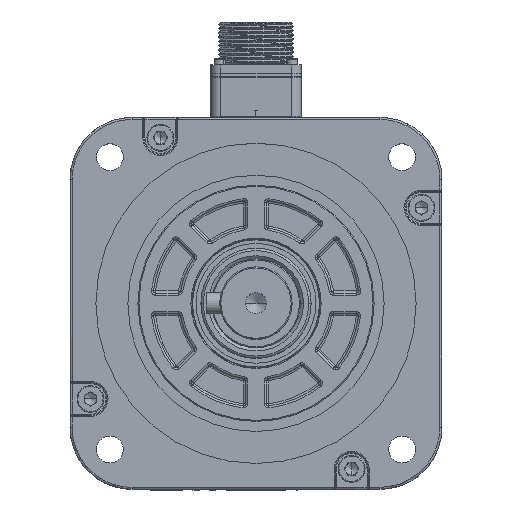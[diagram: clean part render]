
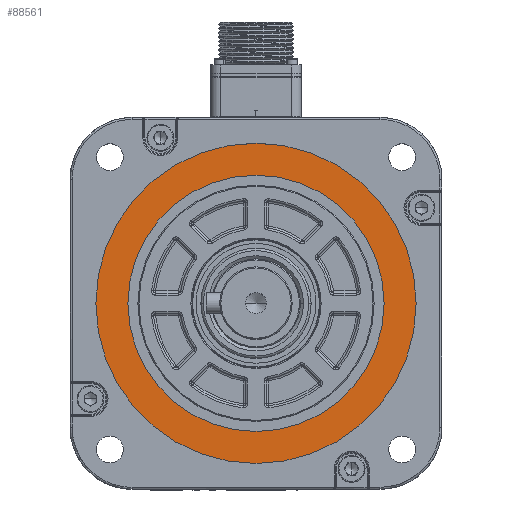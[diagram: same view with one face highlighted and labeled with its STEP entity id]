
A CAD part, top view. The second image highlights one B-rep face of the part: STEP entity #88561.
In plain terms, the highlighted planar face has unit normal (0, 0, 1) as drawn and (0, 0, -1) by its records, which use the part's own axes.
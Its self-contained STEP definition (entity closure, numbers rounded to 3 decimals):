
#1645 = DIRECTION ( 'NONE',  ( 0., 0., -1. ) ) ;
#9605 = DIRECTION ( 'NONE',  ( 0., 0., 1. ) ) ;
#17899 = VERTEX_POINT ( 'NONE', #151080 ) ;
#19473 = EDGE_LOOP ( 'NONE', ( #24736, #165322 ) ) ;
#21253 = CARTESIAN_POINT ( 'NONE',  ( -77.5, 0., 1.5 ) ) ;
#24301 = DIRECTION ( 'NONE',  ( -1., 0., 0. ) ) ;
#24449 = DIRECTION ( 'NONE',  ( 0., 0., 1. ) ) ;
#24736 = ORIENTED_EDGE ( 'NONE', *, *, #152141, .T. ) ;
#37008 = ORIENTED_EDGE ( 'NONE', *, *, #99165, .T. ) ;
#42686 = VERTEX_POINT ( 'NONE', #21253 ) ;
#46543 = CARTESIAN_POINT ( 'NONE',  ( 0., 0., 1.5 ) ) ;
#47912 = AXIS2_PLACEMENT_3D ( 'NONE', #67032, #1645, #66484 ) ;
#60209 = FACE_BOUND ( 'NONE', #155318, .T. ) ;
#61024 = AXIS2_PLACEMENT_3D ( 'NONE', #89097, #24449, #64054 ) ;
#61704 = CARTESIAN_POINT ( 'NONE',  ( 0., 0., 1.5 ) ) ;
#62008 = CIRCLE ( 'NONE', #61024, 62. ) ;
#64054 = DIRECTION ( 'NONE',  ( -1., 0., 0. ) ) ;
#66221 = FACE_OUTER_BOUND ( 'NONE', #19473, .T. ) ;
#66484 = DIRECTION ( 'NONE',  ( -1., 0., 0. ) ) ;
#67032 = CARTESIAN_POINT ( 'NONE',  ( 0., 0., 1.5 ) ) ;
#75102 = DIRECTION ( 'NONE',  ( 0., 0., -1. ) ) ;
#80799 = VERTEX_POINT ( 'NONE', #162419 ) ;
#88561 = ADVANCED_FACE ( 'NONE', ( #60209, #66221 ), #126397, .T. ) ;
#89097 = CARTESIAN_POINT ( 'NONE',  ( 0., 0., 1.5 ) ) ;
#97105 = CIRCLE ( 'NONE', #47912, 77.5 ) ;
#98906 = DIRECTION ( 'NONE',  ( -1., 0., 0. ) ) ;
#99165 = EDGE_CURVE ( 'NONE', #17899, #80799, #62008, .T. ) ;
#100777 = DIRECTION ( 'NONE',  ( -1., 0., 0. ) ) ;
#106738 = EDGE_CURVE ( 'NONE', #80799, #17899, #106746, .T. ) ;
#106746 = CIRCLE ( 'NONE', #133541, 62. ) ;
#116989 = ORIENTED_EDGE ( 'NONE', *, *, #106738, .T. ) ;
#117646 = CIRCLE ( 'NONE', #123503, 77.5 ) ;
#123503 = AXIS2_PLACEMENT_3D ( 'NONE', #138092, #125243, #24301 ) ;
#125243 = DIRECTION ( 'NONE',  ( 0., 0., -1. ) ) ;
#126397 = PLANE ( 'NONE',  #142897 ) ;
#133541 = AXIS2_PLACEMENT_3D ( 'NONE', #46543, #9605, #98906 ) ;
#138092 = CARTESIAN_POINT ( 'NONE',  ( 0., 0., 1.5 ) ) ;
#139359 = CARTESIAN_POINT ( 'NONE',  ( 77.5, 0., 1.5 ) ) ;
#142897 = AXIS2_PLACEMENT_3D ( 'NONE', #61704, #75102, #100777 ) ;
#147582 = VERTEX_POINT ( 'NONE', #139359 ) ;
#151080 = CARTESIAN_POINT ( 'NONE',  ( 62., 0., 1.5 ) ) ;
#152141 = EDGE_CURVE ( 'NONE', #42686, #147582, #97105, .T. ) ;
#155318 = EDGE_LOOP ( 'NONE', ( #116989, #37008 ) ) ;
#156023 = EDGE_CURVE ( 'NONE', #147582, #42686, #117646, .T. ) ;
#162419 = CARTESIAN_POINT ( 'NONE',  ( -62., 0., 1.5 ) ) ;
#165322 = ORIENTED_EDGE ( 'NONE', *, *, #156023, .T. ) ;
